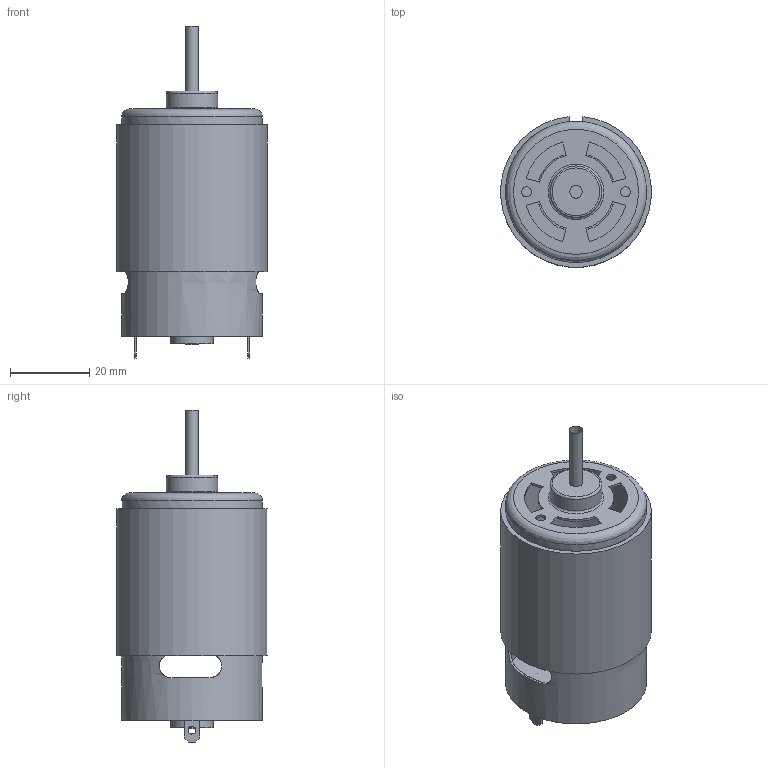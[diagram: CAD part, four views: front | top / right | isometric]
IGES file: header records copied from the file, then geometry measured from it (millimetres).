
Global section: file name: No Iges File Name specified; native system: AutoDesk Inventor R5.0; preprocessor: AutoDesk Inventor Iges Exporter R5.0; author: No Author specified; organization: No Organization specified; date: 20070115.071810; units: millimetre
Bounding box: 37.86 x 37.85 x 83.6 mm (x, y, z)
Surface area: 16881.5 mm2 (no closed solid volume)
Topology: 0 solids, 0 shells, 93 faces, 450 edges, 430 vertices
Faces by surface type: plane 47, revolution 38, bspline 8
